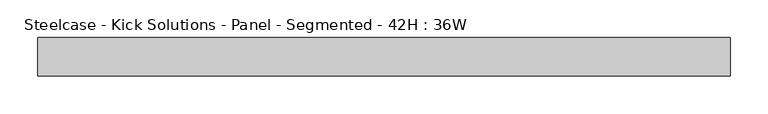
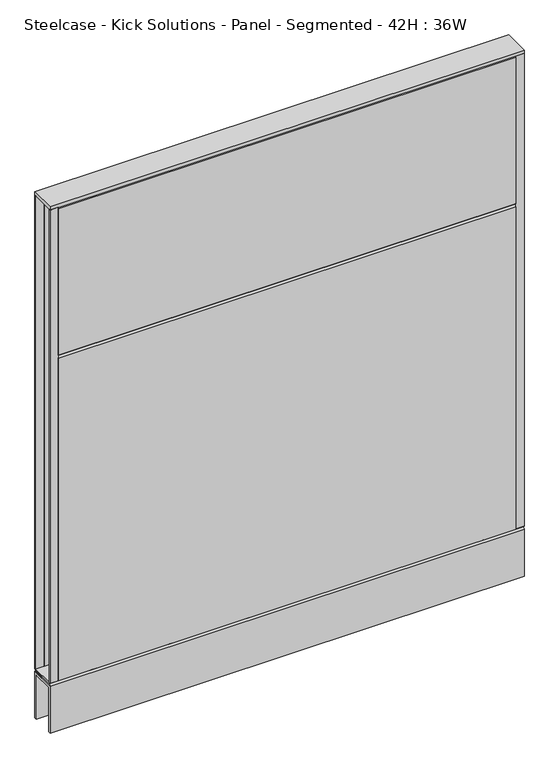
"""IFC4 building model written with IfcOpenShell, lengths in millimetres: furniture geometry, Steelcase - Kick Solutions - Panel - Segmented - 42H : 36W."""

from ifc_helpers import new_model, si_unit, frame, origin, place, context, project, spatial, polyline, outline, extrude, source, transform, mapped, element, save


def steelcase_kick_solutions_panel_segmented_42h_36w_75bfac76(model_context):
    return source(origin(), model_context, "Body", "SweptSolid", [
        extrude(outline(polyline([(1.5e-06, 101.600003), (-3.175, 101.600003), (-3.175, 1066.8), (1.5e-06, 1063.7188448), (1.5e-06, 101.600003)])), frame((15.8749996, 0.0, 0.0), z_axis=(1.0, 0.0, 0.0), x_axis=(0.0, 1.0, 0.0)), (0.0, 0.0, 1.0), 882.6500008),
        extrude(outline(polyline([(-50.8000015, 765.0811552), (-50.8000015, 1063.7188448), (-47.625, 1066.8), (-47.625, 762.0), (-50.8000015, 765.0811552)])), frame((15.8749996, 0.0, 0.0), z_axis=(1.0, 0.0, 0.0), x_axis=(0.0, 1.0, 0.0)), (0.0, 0.0, 1.0), 882.6500008),
        extrude(outline(polyline([(-50.8000015, 101.600003), (-50.8000015, 758.9188448), (-47.625, 762.0), (-47.625, 101.600003), (-50.8000015, 101.600003)])), frame((15.8749996, 0.0, 0.0), z_axis=(1.0, 0.0, 0.0), x_axis=(0.0, 1.0, 0.0)), (0.0, 0.0, 1.0), 882.6500008),
        extrude(outline(polyline([(914.4, -3.1750015), (898.5250004, -3.1750015), (898.5250004, 0.0), (914.4, 0.0), (914.4, -3.1750015)])), frame((0.0, 0.0, 101.7169049), z_axis=(0.0, 0.0, 1.0), x_axis=(1.0, 0.0, 0.0)), (0.0, 0.0, 1.0), 965.199997),
        extrude(outline(polyline([(15.8749996, -50.8000015), (0.0, -50.8000015), (0.0, -47.625), (15.8749996, -47.625), (15.8749996, -50.8000015)])), frame((0.0, 0.0, 101.7169049), z_axis=(0.0, 0.0, 1.0), x_axis=(1.0, 0.0, 0.0)), (0.0, 0.0, 1.0), 965.199997),
        extrude(outline(polyline([(-50.7995075, 101.7169049), (-0.000494, 101.7169049), (-3.0583512, 98.5421458), (-47.7416503, 98.5421458), (-50.7995075, 101.7169049)])), frame((0.0, 0.0, 0.0), z_axis=(1.0, 0.0, 0.0), x_axis=(0.0, 1.0, 0.0)), (0.0, 0.0, 1.0), 914.4),
        extrude(outline(polyline([(914.4, 0.0), (914.4, -50.8000015), (0.0, -50.8000015), (0.0, 0.0), (914.4, 0.0)])), frame((0.0, 0.0, 1066.9169018), z_axis=(0.0, 0.0, 1.0), x_axis=(1.0, 0.0, 0.0)), (0.0, 0.0, 1.0), 6.35),
        extrude(outline(polyline([(15.8749996, -3.1750015), (0.0, -3.1750015), (0.0, 0.0), (15.8749996, 0.0), (15.8749996, -3.1750015)])), frame((0.0, 0.0, 101.7169049), z_axis=(0.0, 0.0, 1.0), x_axis=(1.0, 0.0, 0.0)), (0.0, 0.0, 1.0), 965.199997),
        extrude(outline(polyline([(914.4, -50.8000015), (898.5250004, -50.8000015), (898.5250004, -47.625), (914.4, -47.625), (914.4, -50.8000015)])), frame((0.0, 0.0, 101.7169049), z_axis=(0.0, 0.0, 1.0), x_axis=(1.0, 0.0, 0.0)), (0.0, 0.0, 1.0), 965.199997),
        extrude(outline(polyline([(-50.8000015, 95.3668927), (-47.6247484, 98.5421458), (-3.1752531, 98.5421458), (0.0, 95.3668927), (-50.8000015, 95.3668927)])), frame((0.0, 0.0, 0.0), z_axis=(1.0, 0.0, 0.0), x_axis=(0.0, 1.0, 0.0)), (0.0, 0.0, 1.0), 914.4),
        extrude(outline(polyline([(0.0, 0.0), (-5.08, 0.0), (-5.08, 90.2869018), (-45.7200015, 90.2869018), (-45.7200015, 0.0), (-50.8000015, 0.0), (-50.8000015, 95.3669018), (0.0, 95.3669018), (0.0, 0.0)])), frame((0.0, 0.0, 0.0), z_axis=(1.0, 0.0, 0.0), x_axis=(0.0, 1.0, 0.0)), (0.0, 0.0, 1.0), 914.4),
    ])


if __name__ == "__main__":
    model = new_model("IFC4")
    model_context = context("Model", 3, world=origin())
    ifc_project = project(units=[si_unit("LENGTHUNIT", "METRE", prefix="MILLI")], contexts=[model_context])
    site = spatial("IfcSite", under=ifc_project)
    building = spatial("IfcBuilding", under=site)
    placement = place(None, origin())
    steelcase_kick_solutions_panel_segmented_42h_36w_shape = steelcase_kick_solutions_panel_segmented_42h_36w_75bfac76(model_context)
    element("IfcFurniture", 1, ObjectType="Steelcase - Kick Solutions - Panel - Segmented - 42H : 36W", at=placement, inside=building, context=model_context, shape_type="MappedRepresentation", body=[
        mapped(steelcase_kick_solutions_panel_segmented_42h_36w_shape, transform((0.0, 0.0, 0.0), x_axis=(1.0, 0.0, 0.0), y_axis=(0.0, 1.0, 0.0), z_axis=(0.0, 0.0, 1.0))),
    ])
    save(model, "model.ifc")
